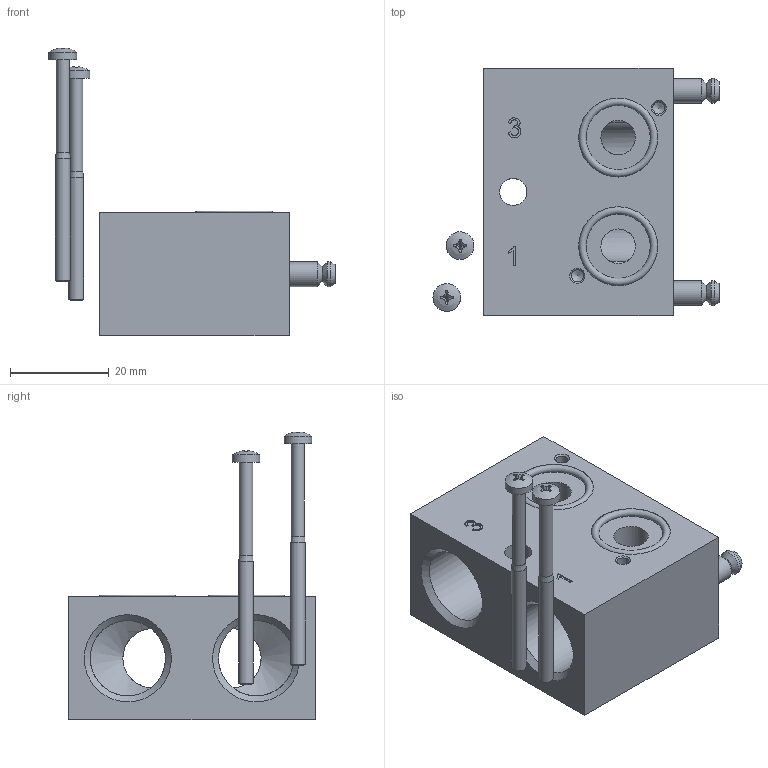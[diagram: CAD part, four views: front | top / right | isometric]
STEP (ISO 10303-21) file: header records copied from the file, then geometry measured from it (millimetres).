
FILE_DESCRIPTION( ( 'Unknown' ), '1' );
FILE_NAME( 'Q:/Solid Edge ST4/STEP/R 3 703 GL.stp', 'Unknown', ( 'Unknown' ), ( 'Unknown' ), 'PSStep 17.0.49', 'Unknown', ' ' );
FILE_SCHEMA( ( 'AUTOMOTIVE_DESIGN { 1 0 10303 214 1 1 1 1 }' ) );
Length unit declared in the file: millimetre
Products named in the file (5): Assem1; BO 18 05; O-Ring 13x1,5 NBR70; AR 3 703 GL; DIN7985-H-A2-M3x45
Assembly tree (7 placements, depth 2):
  Assem1
    BO 18 05  x2
    O-Ring 13x1,5 NBR70  x2
    AR 3 703 GL
    DIN7985-H-A2-M3x45  x2
Bounding box: 57.93 x 50 x 58.32 mm (x, y, z)
Volume: 35995.6 mm3; surface area: 14210.1 mm2
Topology: 7 solids, 7 shells, 132 faces, 295 edges, 178 vertices
Faces by surface type: plane 66, cone 28, cylinder 28, extrusion 6, torus 2, sphere 2
Full cylindrical faces by diameter (mm): 2.459 x4, 2.693 x2, 3 x2, 5 x6, 5.5 x1, 5.6 x2, 7 x2, 12 x2, 15.25 x2, 16 x2
Entity records: 4124 total; most frequent: CARTESIAN_POINT 891, DIRECTION 415, ORIENTED_EDGE 326, PRESENTATION_STYLE_ASSIGNMENT 192, COLOUR_RGB 192, AXIS2_PLACEMENT_3D 169, EDGE_CURVE 163, STYLED_ITEM 149
